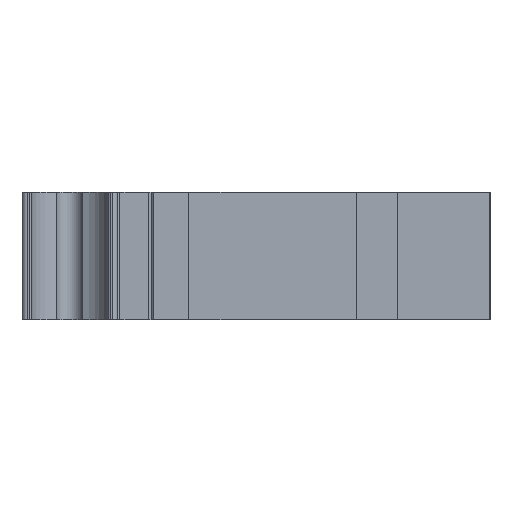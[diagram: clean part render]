
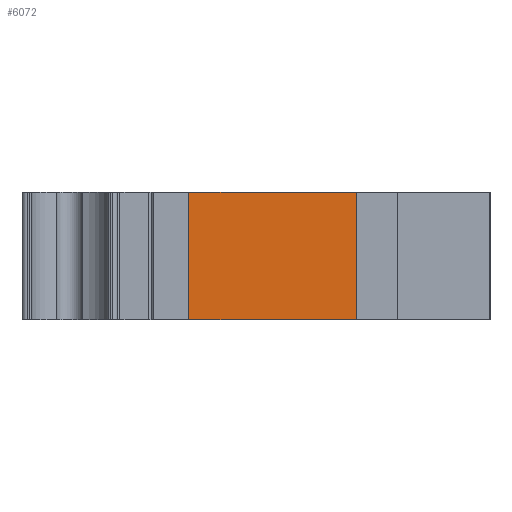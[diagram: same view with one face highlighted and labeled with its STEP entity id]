
A CAD part, left-side view. The second image highlights one B-rep face of the part: STEP entity #6072.
In plain terms, the highlighted planar face has unit normal (-1, 0, 0).
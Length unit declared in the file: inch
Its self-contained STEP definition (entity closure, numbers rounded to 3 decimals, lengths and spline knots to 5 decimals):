
#3248=CARTESIAN_POINT('',(-0.88583,0.59055,1.0));
#3249=VERTEX_POINT('',#3248);
#3266=CARTESIAN_POINT('',(-0.88583,0.59055,0.0));
#3267=VERTEX_POINT('',#3266);
#3274=CARTESIAN_POINT('',(-0.88583,0.59055,0.0));
#3275=DIRECTION('',(0.0,0.0,1.0));
#3276=VECTOR('',#3275,1.0);
#3277=LINE('',#3274,#3276);
#3278=EDGE_CURVE('',#3267,#3249,#3277,.T.);
#6025=CARTESIAN_POINT('',(-0.88583,-0.72441,1.0));
#6026=VERTEX_POINT('',#6025);
#6033=CARTESIAN_POINT('',(-0.88583,-0.72441,0.0));
#6034=VERTEX_POINT('',#6033);
#6035=CARTESIAN_POINT('',(-0.88583,-0.72441,0.0));
#6036=DIRECTION('',(0.0,0.0,1.0));
#6037=VECTOR('',#6036,1.0);
#6038=LINE('',#6035,#6037);
#6039=EDGE_CURVE('',#6034,#6026,#6038,.T.);
#6051=CARTESIAN_POINT('',(-0.88583,-0.72441,0.0));
#6052=DIRECTION('',(-1.0,0.0,0.0));
#6053=DIRECTION('',(0.0,0.0,1.0));
#6054=AXIS2_PLACEMENT_3D('',#6051,#6052,#6053);
#6055=PLANE('',#6054);
#6056=CARTESIAN_POINT('',(-0.88583,-0.72441,1.0));
#6057=DIRECTION('',(0.0,1.0,0.0));
#6058=VECTOR('',#6057,1.31496);
#6059=LINE('',#6056,#6058);
#6060=EDGE_CURVE('',#6026,#3249,#6059,.T.);
#6061=ORIENTED_EDGE('',*,*,#6060,.T.);
#6062=ORIENTED_EDGE('',*,*,#3278,.F.);
#6063=CARTESIAN_POINT('',(-0.88583,0.59055,0.0));
#6064=DIRECTION('',(0.0,-1.0,0.0));
#6065=VECTOR('',#6064,1.31496);
#6066=LINE('',#6063,#6065);
#6067=EDGE_CURVE('',#3267,#6034,#6066,.T.);
#6068=ORIENTED_EDGE('',*,*,#6067,.T.);
#6069=ORIENTED_EDGE('',*,*,#6039,.T.);
#6070=EDGE_LOOP('',(#6061,#6062,#6068,#6069));
#6071=FACE_OUTER_BOUND('',#6070,.T.);
#6072=ADVANCED_FACE('',(#6071),#6055,.T.);
